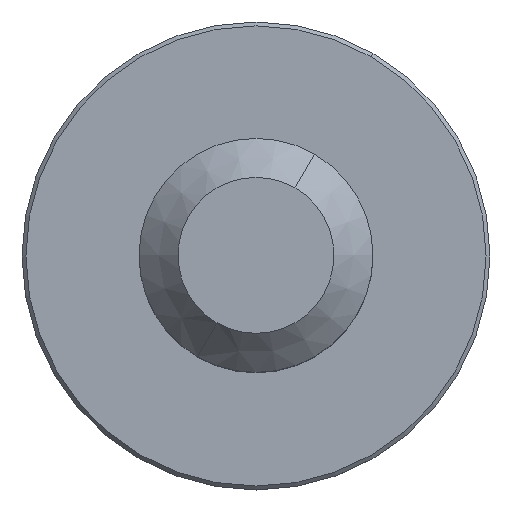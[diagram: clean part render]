
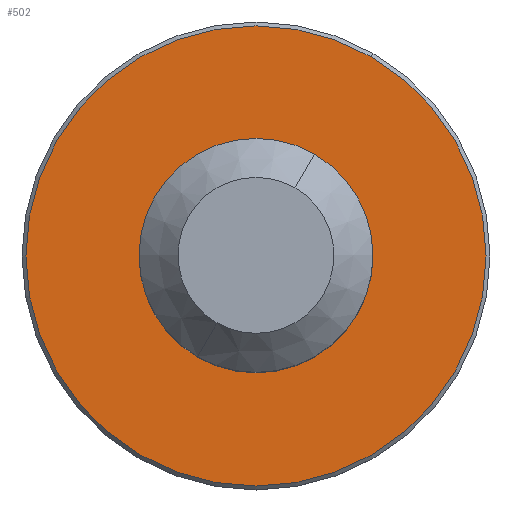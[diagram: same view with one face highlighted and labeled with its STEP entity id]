
A CAD part, top view. The second image highlights one B-rep face of the part: STEP entity #502.
In plain terms, the highlighted planar face has unit normal (0, 0, 1).
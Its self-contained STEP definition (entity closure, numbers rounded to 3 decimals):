
#60 = EDGE_LOOP ( 'NONE', ( #892, #1042 ) ) ;
#151 = VERTEX_POINT ( 'NONE', #719 ) ;
#181 = PLANE ( 'NONE',  #1443 ) ;
#193 = AXIS2_PLACEMENT_3D ( 'NONE', #503, #1244, #1526 ) ;
#226 = AXIS2_PLACEMENT_3D ( 'NONE', #1545, #938, #1217 ) ;
#255 = DIRECTION ( 'NONE',  ( 0., 0., 1. ) ) ;
#267 = EDGE_CURVE ( 'NONE', #1679, #1005, #802, .T. ) ;
#337 = CARTESIAN_POINT ( 'NONE',  ( 5.196, -3., 0. ) ) ;
#342 = ORIENTED_EDGE ( 'NONE', *, *, #604, .T. ) ;
#404 = CARTESIAN_POINT ( 'NONE',  ( 0., 0., 0. ) ) ;
#502 = ADVANCED_FACE ( 'NONE', ( #755, #1179 ), #181, .T. ) ;
#503 = CARTESIAN_POINT ( 'NONE',  ( 0., 0., 0. ) ) ;
#517 = AXIS2_PLACEMENT_3D ( 'NONE', #1703, #1698, #847 ) ;
#534 = EDGE_LOOP ( 'NONE', ( #1335, #342 ) ) ;
#552 = CIRCLE ( 'NONE', #193, 5.7 ) ;
#573 = VERTEX_POINT ( 'NONE', #1095 ) ;
#604 = EDGE_CURVE ( 'NONE', #573, #151, #552, .T. ) ;
#684 = DIRECTION ( 'NONE',  ( -0.5, -0.866, 0. ) ) ;
#686 = DIRECTION ( 'NONE',  ( -0.5, -0.866, 0. ) ) ;
#719 = CARTESIAN_POINT ( 'NONE',  ( -2.85, -4.936, 0. ) ) ;
#755 = FACE_OUTER_BOUND ( 'NONE', #60, .T. ) ;
#802 = CIRCLE ( 'NONE', #1796, 11.8 ) ;
#847 = DIRECTION ( 'NONE',  ( -0.5, -0.866, 0. ) ) ;
#892 = ORIENTED_EDGE ( 'NONE', *, *, #267, .T. ) ;
#938 = DIRECTION ( 'NONE',  ( 0., 0., -1. ) ) ;
#1005 = VERTEX_POINT ( 'NONE', #1064 ) ;
#1016 = DIRECTION ( 'NONE',  ( 0., 0., 1. ) ) ;
#1042 = ORIENTED_EDGE ( 'NONE', *, *, #1172, .T. ) ;
#1064 = CARTESIAN_POINT ( 'NONE',  ( -5.9, -10.219, 0. ) ) ;
#1095 = CARTESIAN_POINT ( 'NONE',  ( 2.85, 4.936, 0. ) ) ;
#1172 = EDGE_CURVE ( 'NONE', #1005, #1679, #1340, .T. ) ;
#1179 = FACE_BOUND ( 'NONE', #534, .T. ) ;
#1217 = DIRECTION ( 'NONE',  ( -0.5, -0.866, 0. ) ) ;
#1244 = DIRECTION ( 'NONE',  ( 0., 0., -1. ) ) ;
#1335 = ORIENTED_EDGE ( 'NONE', *, *, #1833, .T. ) ;
#1340 = CIRCLE ( 'NONE', #517, 11.8 ) ;
#1443 = AXIS2_PLACEMENT_3D ( 'NONE', #337, #1016, #686 ) ;
#1526 = DIRECTION ( 'NONE',  ( -0.5, -0.866, 0. ) ) ;
#1545 = CARTESIAN_POINT ( 'NONE',  ( 0., 0., 0. ) ) ;
#1589 = CARTESIAN_POINT ( 'NONE',  ( 5.9, 10.219, 0. ) ) ;
#1679 = VERTEX_POINT ( 'NONE', #1589 ) ;
#1698 = DIRECTION ( 'NONE',  ( 0., 0., 1. ) ) ;
#1703 = CARTESIAN_POINT ( 'NONE',  ( 0., 0., 0. ) ) ;
#1796 = AXIS2_PLACEMENT_3D ( 'NONE', #404, #255, #684 ) ;
#1833 = EDGE_CURVE ( 'NONE', #151, #573, #1860, .T. ) ;
#1860 = CIRCLE ( 'NONE', #226, 5.7 ) ;
